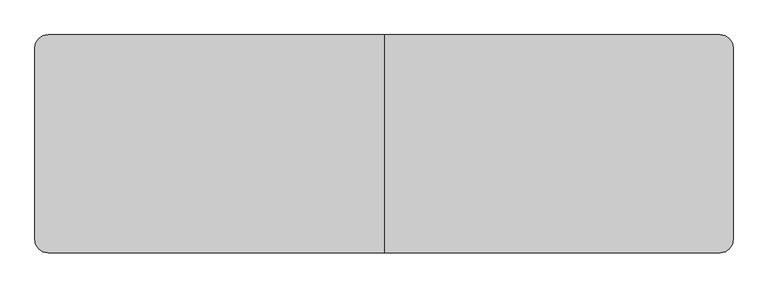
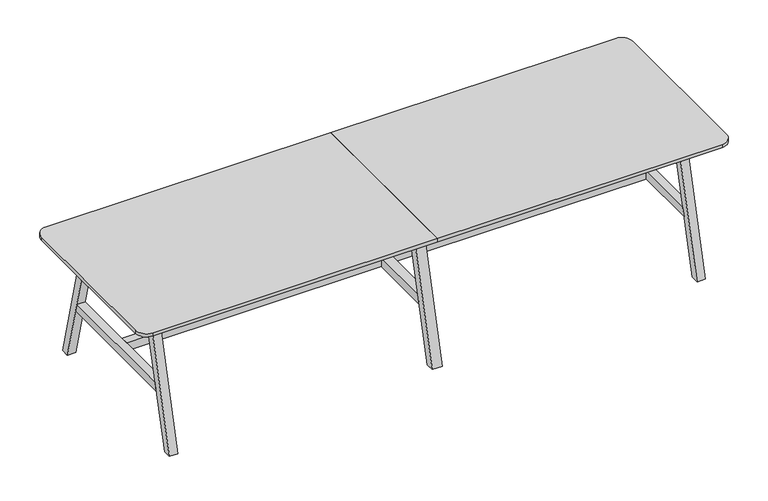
"""IFC4 building model written with IfcOpenShell, lengths in millimetres: furniture geometry, BDG_BossDesign_Tbls_AgentTables6Legs : AGE-DT-6L-3200-1000-3D."""

from ifc_helpers import new_model, si_unit, point, frame, frame_2d, origin, place, context, project, spatial, polyline, circle_curve, trimmed, segment, composite_curve, outline, extrude, source, transform, mapped, element, save


def furniture_2c2fea91(model_context):
    return source(origin(), model_context, "Body", "SweptSolid", [
        extrude(outline(polyline([(500.0, 0.0), (454.9999949, 0.0), (285.5, 660.0), (330.5000051, 660.0), (500.0, 0.0)])), frame((-27.5, 0.0, 0.0), z_axis=(1.0, 0.0, 0.0), x_axis=(0.0, 1.0, 0.0)), (0.0, 0.0, 1.0), 55.0),
        extrude(outline(polyline([(-500.0, 0.0), (-330.5000051, 660.0), (-285.5, 660.0), (-454.9999949, 0.0), (-500.0, 0.0)])), frame((-27.5, 0.0, 0.0), z_axis=(1.0, 0.0, 0.0), x_axis=(0.0, 1.0, 0.0)), (0.0, 0.0, 1.0), 55.0),
        extrude(outline(polyline([(377.9545427, 300.0), (-377.9545427, 300.0), (-366.3977249, 345.0), (366.3977249, 345.0), (377.9545427, 300.0)])), frame((-27.5, 0.0, 0.0), z_axis=(1.0, 0.0, 0.0), x_axis=(0.0, 1.0, 0.0)), (0.0, 0.0, 1.0), 55.0),
        extrude(outline(composite_curve([segment(polyline([(0.0, 500.0), (0.0, -500.0), (-1540.0, -500.0)]), True, "CONTINUOUS"), segment(trimmed(circle_curve(frame_2d((-1540.0, -440.0)), 60.0), [point((-1540.0, -500.0))], [point((-1600.0, -440.0))], False, "CARTESIAN"), True, "CONTINUOUS"), segment(polyline([(-1600.0, -440.0), (-1600.0, 440.0)]), True, "CONTINUOUS"), segment(trimmed(circle_curve(frame_2d((-1540.0, 440.0)), 60.0), [point((-1600.0, 440.0))], [point((-1540.0, 500.0))], False, "CARTESIAN"), True, "CONTINUOUS"), segment(polyline([(-1540.0, 500.0), (0.0, 500.0)]), True, "CONTINUOUS")], self_intersect=False)), frame((0.0, 0.0, 722.0), z_axis=(0.0, 0.0, 1.0), x_axis=(1.0, 0.0, 0.0)), (0.0, 0.0, 1.0), 18.0),
        extrude(outline(polyline([(-366.3977249, 345.0), (366.3977249, 345.0), (377.9545427, 300.0), (-377.9545427, 300.0), (-366.3977249, 345.0)])), frame((1405.0, 0.0, 0.0), z_axis=(1.0, 0.0, 0.0), x_axis=(0.0, 1.0, 0.0)), (0.0, 0.0, 1.0), 45.0),
        extrude(outline(polyline([(500.0, 0.0), (454.9999949, 0.0), (285.5, 660.0), (330.5000051, 660.0), (500.0, 0.0)])), frame((-1450.0, 0.0, 0.0), z_axis=(1.0, 0.0, 0.0), x_axis=(0.0, 1.0, 0.0)), (0.0, 0.0, 1.0), 45.0),
        extrude(outline(polyline([(-500.0, 0.0), (-330.5000051, 660.0), (-285.5, 660.0), (-454.9999949, 0.0), (-500.0, 0.0)])), frame((-1450.0, 0.0, 0.0), z_axis=(1.0, 0.0, 0.0), x_axis=(0.0, 1.0, 0.0)), (0.0, 0.0, 1.0), 45.0),
        extrude(outline(polyline([(-366.3977249, 345.0), (366.3977249, 345.0), (377.9545427, 300.0), (-377.9545427, 300.0), (-366.3977249, 345.0)])), frame((-1450.0, 0.0, 0.0), z_axis=(1.0, 0.0, 0.0), x_axis=(0.0, 1.0, 0.0)), (0.0, 0.0, 1.0), 45.0),
        extrude(outline(polyline([(-326.6006165, 634.973938), (-304.2770691, 722.0), (-279.5, 722.0), (-301.8235474, 634.973938), (-326.6006165, 634.973938)])), frame((-1405.0, 0.0, 0.0), z_axis=(1.0, 0.0, 0.0), x_axis=(0.0, 1.0, 0.0)), (0.0, 0.0, 1.0), 2810.0),
        extrude(outline(polyline([(326.6006165, 634.973938), (301.8235474, 634.973938), (279.5, 722.0), (304.2770691, 722.0), (326.6006165, 634.973938)])), frame((-1405.0, 0.0, 0.0), z_axis=(1.0, 0.0, 0.0), x_axis=(0.0, 1.0, 0.0)), (0.0, 0.0, 1.0), 2810.0),
        extrude(outline(polyline([(499.7999878, 0.0), (454.7999827, 0.0), (285.5, 660.0), (330.5000051, 660.0), (499.7999878, 0.0)])), frame((1405.0, 0.0, 0.0), z_axis=(1.0, 0.0, 0.0), x_axis=(0.0, 1.0, 0.0)), (0.0, 0.0, 1.0), 45.0),
        extrude(outline(polyline([(-499.7999878, 0.0), (-330.5000051, 660.0), (-285.5, 660.0), (-454.7999827, 0.0), (-499.7999878, 0.0)])), frame((1405.0, 0.0, 0.0), z_axis=(1.0, 0.0, 0.0), x_axis=(0.0, 1.0, 0.0)), (0.0, 0.0, 1.0), 45.0),
        extrude(outline(polyline([(-27.5, 22.5000305), (-27.5, -22.5000305), (-1405.0, -22.5000305), (-1405.0, 22.5000305), (-27.5, 22.5000305)])), frame((0.0, 0.0, 300.0), z_axis=(0.0, 0.0, 1.0), x_axis=(1.0, 0.0, 0.0)), (0.0, 0.0, 1.0), 45.0),
        extrude(outline(polyline([(27.5, -22.5000305), (27.5, 22.5000305), (1405.0, 22.5000305), (1405.0, -22.5000305), (27.5, -22.5000305)])), frame((0.0, 0.0, 300.0), z_axis=(0.0, 0.0, 1.0), x_axis=(1.0, 0.0, 0.0)), (0.0, 0.0, 1.0), 45.0),
        extrude(outline(composite_curve([segment(trimmed(circle_curve(frame_2d((1540.0, 440.0)), 60.0), [point((1540.0, 500.0))], [point((1600.0, 440.0))], False, "CARTESIAN"), True, "CONTINUOUS"), segment(polyline([(1600.0, 440.0), (1600.0, -440.0)]), True, "CONTINUOUS"), segment(trimmed(circle_curve(frame_2d((1540.0, -440.0)), 60.0), [point((1600.0, -440.0))], [point((1540.0, -500.0))], False, "CARTESIAN"), True, "CONTINUOUS"), segment(polyline([(1540.0, -500.0), (0.0, -500.0), (0.0, 500.0), (1540.0, 500.0)]), True, "CONTINUOUS")], self_intersect=False)), frame((0.0, 0.0, 722.0), z_axis=(0.0, 0.0, 1.0), x_axis=(1.0, 0.0, 0.0)), (0.0, 0.0, 1.0), 18.0),
    ])


if __name__ == "__main__":
    model = new_model("IFC4")
    model_context = context("Model", 3, world=origin())
    ifc_project = project(units=[si_unit("LENGTHUNIT", "METRE", prefix="MILLI")], contexts=[model_context])
    site = spatial("IfcSite", under=ifc_project)
    building = spatial("IfcBuilding", under=site)
    placement = place(None, origin())
    furniture_shape = furniture_2c2fea91(model_context)
    element("IfcFurniture", 1, ObjectType="BDG_BossDesign_Tbls_AgentTables6Legs : AGE-DT-6L-3200-1000-3D", at=placement, inside=building, context=model_context, shape_type="MappedRepresentation", body=[
        mapped(furniture_shape, transform((0.0, 0.0, 0.0), x_axis=(1.0, 0.0, 0.0), y_axis=(0.0, 1.0, 0.0), z_axis=(0.0, 0.0, 1.0))),
    ])
    save(model, "model.ifc")
